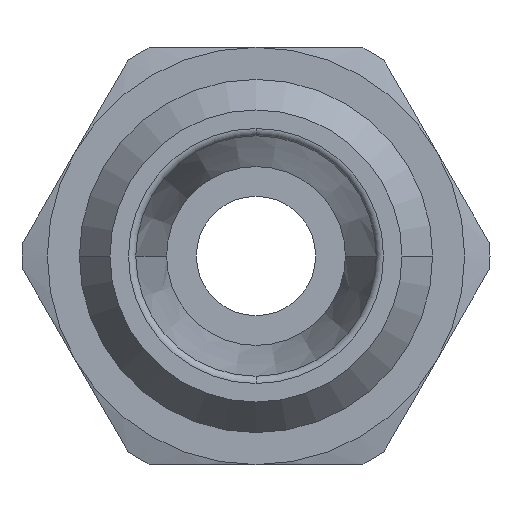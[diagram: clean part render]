
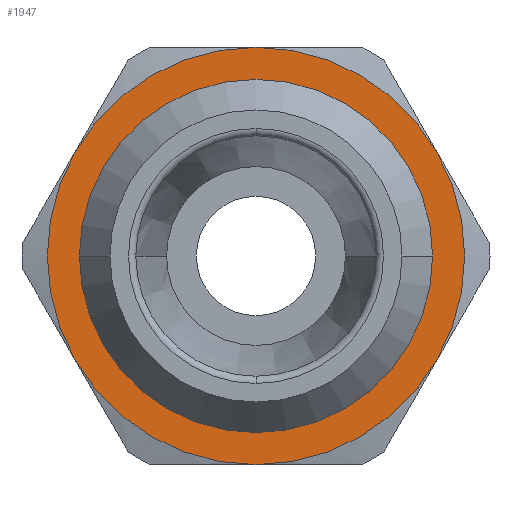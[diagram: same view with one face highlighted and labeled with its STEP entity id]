
A CAD part, left-side view. The second image highlights one B-rep face of the part: STEP entity #1947.
In plain terms, the highlighted planar face has unit normal (-1, 0, 0) as drawn and (0, 0, 1) by its records, which use the part's own axes.
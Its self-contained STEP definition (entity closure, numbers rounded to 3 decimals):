
#857=CARTESIAN_POINT('',(-5.8,0.,2.0));
#858=VERTEX_POINT('',#857);
#884=CARTESIAN_POINT('',(5.8,0.,2.0));
#885=VERTEX_POINT('',#884);
#893=CARTESIAN_POINT('',(0.,0.,2.0));
#894=DIRECTION('',(0.0,0.0,1.0));
#895=DIRECTION('',(-1.0,0.0,0.0));
#896=AXIS2_PLACEMENT_3D('',#893,#894,#895);
#897=CIRCLE('',#896,5.8);
#898=EDGE_CURVE('',#885,#858,#897,.T.);
#1827=CARTESIAN_POINT('',(0.,-5.8,2.));
#1828=VERTEX_POINT('',#1827);
#1829=CARTESIAN_POINT('',(0.,0.,2.0));
#1830=DIRECTION('',(0.0,0.0,1.0));
#1831=DIRECTION('',(-1.0,0.0,0.0));
#1832=AXIS2_PLACEMENT_3D('',#1829,#1830,#1831);
#1833=CIRCLE('',#1832,5.8);
#1834=EDGE_CURVE('',#858,#1828,#1833,.T.);
#1836=CARTESIAN_POINT('',(0.,0.,2.0));
#1837=DIRECTION('',(0.0,0.0,1.0));
#1838=DIRECTION('',(-1.0,0.0,0.0));
#1839=AXIS2_PLACEMENT_3D('',#1836,#1837,#1838);
#1840=CIRCLE('',#1839,5.8);
#1841=EDGE_CURVE('',#1828,#885,#1840,.T.);
#1881=CARTESIAN_POINT('',(0.,0.,2.0));
#1882=DIRECTION('',(0.0,0.0,1.0));
#1883=DIRECTION('',(1.0,0.0,0.0));
#1884=AXIS2_PLACEMENT_3D('',#1881,#1882,#1883);
#1885=PLANE('',#1884);
#1886=CARTESIAN_POINT('',(3.5,-6.062,2.));
#1887=VERTEX_POINT('',#1886);
#1888=CARTESIAN_POINT('',(7.,0.0,2.));
#1889=VERTEX_POINT('',#1888);
#1890=CARTESIAN_POINT('',(0.,0.0,2.0));
#1891=DIRECTION('',(0.0,0.0,1.0));
#1892=DIRECTION('',(1.0,0.0,0.0));
#1893=AXIS2_PLACEMENT_3D('',#1890,#1891,#1892);
#1894=CIRCLE('',#1893,7.);
#1895=EDGE_CURVE('',#1887,#1889,#1894,.T.);
#1896=ORIENTED_EDGE('',*,*,#1895,.T.);
#1897=CARTESIAN_POINT('',(3.5,6.062,2.));
#1898=VERTEX_POINT('',#1897);
#1899=CARTESIAN_POINT('',(0.,0.0,2.0));
#1900=DIRECTION('',(0.0,0.0,1.0));
#1901=DIRECTION('',(1.0,0.0,0.0));
#1902=AXIS2_PLACEMENT_3D('',#1899,#1900,#1901);
#1903=CIRCLE('',#1902,7.);
#1904=EDGE_CURVE('',#1889,#1898,#1903,.T.);
#1905=ORIENTED_EDGE('',*,*,#1904,.T.);
#1906=CARTESIAN_POINT('',(-3.5,6.062,2.));
#1907=VERTEX_POINT('',#1906);
#1908=CARTESIAN_POINT('',(0.,0.0,2.0));
#1909=DIRECTION('',(0.0,0.0,1.0));
#1910=DIRECTION('',(1.0,0.0,0.0));
#1911=AXIS2_PLACEMENT_3D('',#1908,#1909,#1910);
#1912=CIRCLE('',#1911,7.);
#1913=EDGE_CURVE('',#1898,#1907,#1912,.T.);
#1914=ORIENTED_EDGE('',*,*,#1913,.T.);
#1915=CARTESIAN_POINT('',(-7.,0.,2.));
#1916=VERTEX_POINT('',#1915);
#1917=CARTESIAN_POINT('',(0.,0.0,2.0));
#1918=DIRECTION('',(0.0,0.0,1.0));
#1919=DIRECTION('',(1.0,0.0,0.0));
#1920=AXIS2_PLACEMENT_3D('',#1917,#1918,#1919);
#1921=CIRCLE('',#1920,7.);
#1922=EDGE_CURVE('',#1907,#1916,#1921,.T.);
#1923=ORIENTED_EDGE('',*,*,#1922,.T.);
#1924=CARTESIAN_POINT('',(-3.5,-6.062,2.));
#1925=VERTEX_POINT('',#1924);
#1926=CARTESIAN_POINT('',(0.,0.0,2.0));
#1927=DIRECTION('',(0.0,0.0,1.0));
#1928=DIRECTION('',(1.0,0.0,0.0));
#1929=AXIS2_PLACEMENT_3D('',#1926,#1927,#1928);
#1930=CIRCLE('',#1929,7.);
#1931=EDGE_CURVE('',#1916,#1925,#1930,.T.);
#1932=ORIENTED_EDGE('',*,*,#1931,.T.);
#1933=CARTESIAN_POINT('',(0.,0.0,2.0));
#1934=DIRECTION('',(0.0,0.0,1.0));
#1935=DIRECTION('',(1.0,0.0,0.0));
#1936=AXIS2_PLACEMENT_3D('',#1933,#1934,#1935);
#1937=CIRCLE('',#1936,7.);
#1938=EDGE_CURVE('',#1925,#1887,#1937,.T.);
#1939=ORIENTED_EDGE('',*,*,#1938,.T.);
#1940=EDGE_LOOP('',(#1896,#1905,#1914,#1923,#1932,#1939));
#1941=FACE_OUTER_BOUND('',#1940,.T.);
#1942=ORIENTED_EDGE('',*,*,#1841,.F.);
#1943=ORIENTED_EDGE('',*,*,#1834,.F.);
#1944=ORIENTED_EDGE('',*,*,#898,.F.);
#1945=EDGE_LOOP('',(#1942,#1943,#1944));
#1946=FACE_BOUND('',#1945,.T.);
#1947=ADVANCED_FACE('',(#1941,#1946),#1885,.T.);
